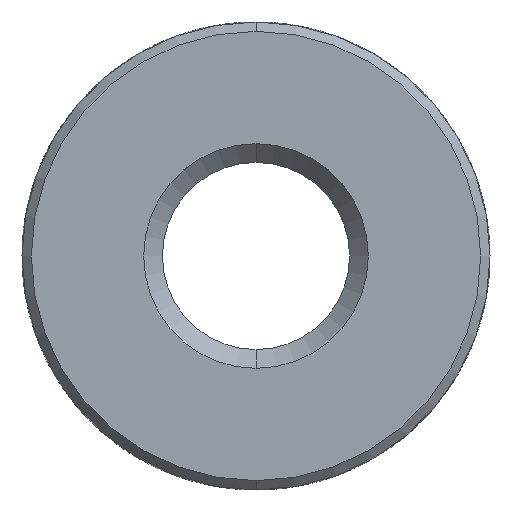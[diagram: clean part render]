
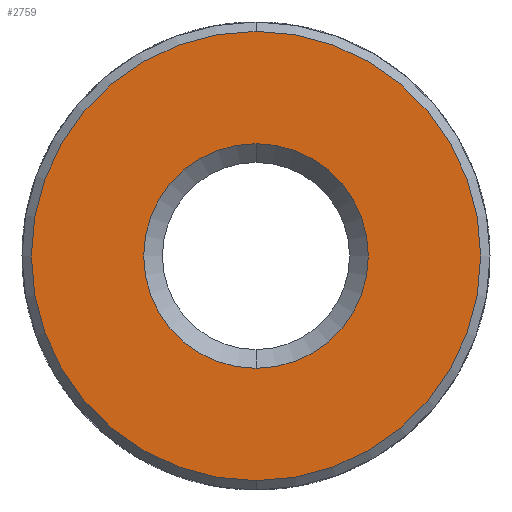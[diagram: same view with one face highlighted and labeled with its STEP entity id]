
A CAD part, front view. The second image highlights one B-rep face of the part: STEP entity #2759.
In plain terms, the highlighted planar face has unit normal (0, -1, 0).
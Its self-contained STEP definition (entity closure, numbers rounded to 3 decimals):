
#28 = EDGE_LOOP ( 'NONE', ( #1851, #1940 ) ) ;
#264 = CARTESIAN_POINT ( 'NONE',  ( 0., -5.7, 2.5 ) ) ;
#323 = CARTESIAN_POINT ( 'NONE',  ( 0., -5.7, 0. ) ) ;
#366 = FACE_BOUND ( 'NONE', #4876, .T. ) ;
#375 = VERTEX_POINT ( 'NONE', #4002 ) ;
#410 = CARTESIAN_POINT ( 'NONE',  ( 0., -5.7, 1.2 ) ) ;
#484 = DIRECTION ( 'NONE',  ( 0., 1., 0. ) ) ;
#568 = VERTEX_POINT ( 'NONE', #3690 ) ;
#572 = EDGE_CURVE ( 'NONE', #375, #1232, #1880, .T. ) ;
#702 = DIRECTION ( 'NONE',  ( 0., 1., 0. ) ) ;
#1048 = AXIS2_PLACEMENT_3D ( 'NONE', #323, #1934, #2411 ) ;
#1056 = AXIS2_PLACEMENT_3D ( 'NONE', #264, #1100, #3935 ) ;
#1100 = DIRECTION ( 'NONE',  ( 0., -1., 0. ) ) ;
#1232 = VERTEX_POINT ( 'NONE', #410 ) ;
#1487 = AXIS2_PLACEMENT_3D ( 'NONE', #3257, #702, #2016 ) ;
#1803 = CIRCLE ( 'NONE', #1048, 2.4 ) ;
#1851 = ORIENTED_EDGE ( 'NONE', *, *, #1870, .T. ) ;
#1870 = EDGE_CURVE ( 'NONE', #568, #2212, #1803, .T. ) ;
#1880 = CIRCLE ( 'NONE', #1487, 1.2 ) ;
#1934 = DIRECTION ( 'NONE',  ( 0., -1., 0. ) ) ;
#1940 = ORIENTED_EDGE ( 'NONE', *, *, #2651, .T. ) ;
#2016 = DIRECTION ( 'NONE',  ( 0., 0., -1. ) ) ;
#2212 = VERTEX_POINT ( 'NONE', #4313 ) ;
#2411 = DIRECTION ( 'NONE',  ( 0., 0., -1. ) ) ;
#2543 = CARTESIAN_POINT ( 'NONE',  ( 0., -5.7, 0. ) ) ;
#2651 = EDGE_CURVE ( 'NONE', #2212, #568, #4864, .T. ) ;
#2759 = ADVANCED_FACE ( 'NONE', ( #3098, #366 ), #3013, .T. ) ;
#2766 = ORIENTED_EDGE ( 'NONE', *, *, #3881, .T. ) ;
#3013 = PLANE ( 'NONE',  #1056 ) ;
#3034 = CARTESIAN_POINT ( 'NONE',  ( 0., -5.7, 0. ) ) ;
#3098 = FACE_OUTER_BOUND ( 'NONE', #28, .T. ) ;
#3257 = CARTESIAN_POINT ( 'NONE',  ( 0., -5.7, 0. ) ) ;
#3389 = ORIENTED_EDGE ( 'NONE', *, *, #572, .T. ) ;
#3576 = AXIS2_PLACEMENT_3D ( 'NONE', #2543, #484, #4998 ) ;
#3690 = CARTESIAN_POINT ( 'NONE',  ( 0., -5.7, 2.4 ) ) ;
#3881 = EDGE_CURVE ( 'NONE', #1232, #375, #4459, .T. ) ;
#3935 = DIRECTION ( 'NONE',  ( 0., 0., -1. ) ) ;
#3975 = AXIS2_PLACEMENT_3D ( 'NONE', #3034, #4736, #5166 ) ;
#4002 = CARTESIAN_POINT ( 'NONE',  ( 0., -5.7, -1.2 ) ) ;
#4313 = CARTESIAN_POINT ( 'NONE',  ( 0., -5.7, -2.4 ) ) ;
#4459 = CIRCLE ( 'NONE', #3576, 1.2 ) ;
#4736 = DIRECTION ( 'NONE',  ( 0., -1., 0. ) ) ;
#4864 = CIRCLE ( 'NONE', #3975, 2.4 ) ;
#4876 = EDGE_LOOP ( 'NONE', ( #3389, #2766 ) ) ;
#4998 = DIRECTION ( 'NONE',  ( 0., 0., -1. ) ) ;
#5166 = DIRECTION ( 'NONE',  ( 0., 0., -1. ) ) ;
